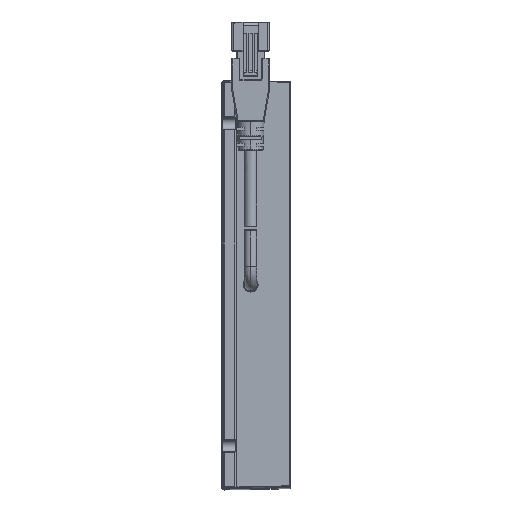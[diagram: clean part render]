
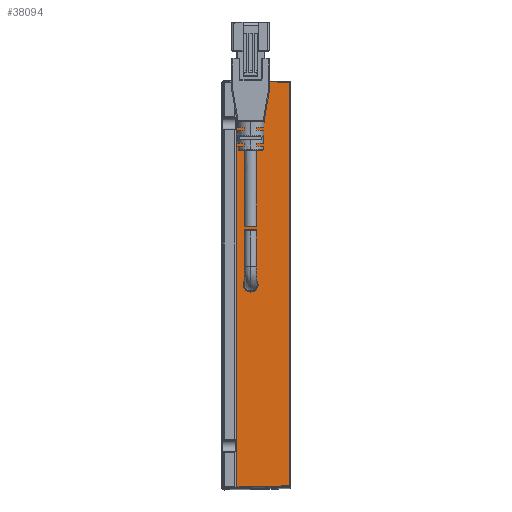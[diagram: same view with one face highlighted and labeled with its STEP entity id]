
A CAD part, top view. The second image highlights one B-rep face of the part: STEP entity #38094.
In plain terms, the highlighted planar face has unit normal (0.018, 0, 1).
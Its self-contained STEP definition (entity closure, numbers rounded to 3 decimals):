
#488 = LINE ( 'NONE', #38589, #13342 ) ;
#1365 = ORIENTED_EDGE ( 'NONE', *, *, #65788, .T. ) ;
#1821 = CARTESIAN_POINT ( 'NONE',  ( 18.803, -56.131, 81.742 ) ) ;
#1988 = CARTESIAN_POINT ( 'NONE',  ( 9.803, -1.038, 81.899 ) ) ;
#2279 = CARTESIAN_POINT ( 'NONE',  ( 5.998, -0.538, 81.965 ) ) ;
#2380 = CARTESIAN_POINT ( 'NONE',  ( 8.543, -2.006, 81.921 ) ) ;
#3476 = CARTESIAN_POINT ( 'NONE',  ( 6.357, -1.265, 81.959 ) ) ;
#5712 = CARTESIAN_POINT ( 'NONE',  ( 4.196, -56.386, 81.997 ) ) ;
#5761 = VECTOR ( 'NONE', #40625, 1000. ) ;
#8348 = EDGE_CURVE ( 'NONE', #103718, #18200, #117886, .T. ) ;
#10392 = CARTESIAN_POINT ( 'NONE',  ( 8.273, -2.06, 81.925 ) ) ;
#10787 = CARTESIAN_POINT ( 'NONE',  ( 10.064, 0.269, 81.894 ) ) ;
#11098 = CARTESIAN_POINT ( 'NONE',  ( 8.003, -2.06, 81.93 ) ) ;
#11336 = CARTESIAN_POINT ( 'NONE',  ( 8.003, -2.06, 81.93 ) ) ;
#12683 = EDGE_CURVE ( 'NONE', #63724, #41693, #66627, .T. ) ;
#13342 = VECTOR ( 'NONE', #111138, 1000. ) ;
#14881 = LINE ( 'NONE', #91465, #40748 ) ;
#16162 = FACE_OUTER_BOUND ( 'NONE', #74023, .T. ) ;
#18200 = VERTEX_POINT ( 'NONE', #96472 ) ;
#20464 = CARTESIAN_POINT ( 'NONE',  ( 9.041, 1.8, 81.912 ) ) ;
#20612 = ORIENTED_EDGE ( 'NONE', *, *, #87827, .T. ) ;
#27730 = FACE_BOUND ( 'NONE', #60481, .T. ) ;
#28525 = CARTESIAN_POINT ( 'NONE',  ( 8.003, 2.06, 81.93 ) ) ;
#29324 = CARTESIAN_POINT ( 'NONE',  ( 10.063, -0.27, 81.894 ) ) ;
#29741 = DIRECTION ( 'NONE',  ( 1., 0.017, -0.017 ) ) ;
#30018 = CARTESIAN_POINT ( 'NONE',  ( 7.735, -2.059, 81.935 ) ) ;
#34064 = ORIENTED_EDGE ( 'NONE', *, *, #12683, .F. ) ;
#34225 = DIRECTION ( 'NONE',  ( 1., 0., -0.017 ) ) ;
#36958 = CARTESIAN_POINT ( 'NONE',  ( 18.803, 56.472, 81.742 ) ) ;
#37789 = CARTESIAN_POINT ( 'NONE',  ( 9.27, 1.647, 81.908 ) ) ;
#38094 = ADVANCED_FACE ( 'NONE', ( #27730, #16162 ), #87940, .T. ) ;
#38589 = CARTESIAN_POINT ( 'NONE',  ( 18.803, 205.595, 81.742 ) ) ;
#38748 = VERTEX_POINT ( 'NONE', #1821 ) ;
#38946 = CARTESIAN_POINT ( 'NONE',  ( 8.543, 2.006, 81.921 ) ) ;
#39350 = CARTESIAN_POINT ( 'NONE',  ( 9.651, 1.266, 81.901 ) ) ;
#40625 = DIRECTION ( 'NONE',  ( -1., 0.017, 0.017 ) ) ;
#40748 = VECTOR ( 'NONE', #73476, 1000. ) ;
#41693 = VERTEX_POINT ( 'NONE', #105627 ) ;
#47804 = CARTESIAN_POINT ( 'NONE',  ( 9.269, -1.647, 81.908 ) ) ;
#48872 = CARTESIAN_POINT ( 'NONE',  ( 6.738, -1.647, 81.952 ) ) ;
#53904 = B_SPLINE_CURVE_WITH_KNOTS ( 'NONE', 3,
 ( #74240, #83373, #57741, #85349, #93799, #103018, #58901, #76177, #103793, #76577, #2279, #66184, #3476, #48872, #94181, #113022, #30018, #11098 ),
 .UNSPECIFIED., .F., .F.,
 ( 4, 2, 2, 2, 2, 2, 2, 2, 4 ),
 ( 0., 0.125, 0.25, 0.375, 0.5, 0.625, 0.75, 0.875, 1. ),
 .UNSPECIFIED. ) ;
#56650 = CARTESIAN_POINT ( 'NONE',  ( 9.041, -1.8, 81.912 ) ) ;
#57048 = CARTESIAN_POINT ( 'NONE',  ( 10.01, -0.54, 81.895 ) ) ;
#57741 = CARTESIAN_POINT ( 'NONE',  ( 7.465, 2.006, 81.94 ) ) ;
#58901 = CARTESIAN_POINT ( 'NONE',  ( 6.205, 1.038, 81.962 ) ) ;
#60481 = EDGE_LOOP ( 'NONE', ( #112133, #34064 ) ) ;
#61478 = DIRECTION ( 'NONE',  ( 0.017, 0., 1. ) ) ;
#63423 = LINE ( 'NONE', #75923, #97786 ) ;
#63724 = VERTEX_POINT ( 'NONE', #11336 ) ;
#64832 = AXIS2_PLACEMENT_3D ( 'NONE', #79166, #61478, #34225 ) ;
#65788 = EDGE_CURVE ( 'NONE', #18200, #118014, #14881, .T. ) ;
#66184 = CARTESIAN_POINT ( 'NONE',  ( 6.204, -1.037, 81.962 ) ) ;
#66291 = CARTESIAN_POINT ( 'NONE',  ( 9.804, 1.037, 81.899 ) ) ;
#66627 = B_SPLINE_CURVE_WITH_KNOTS ( 'NONE', 3,
 ( #83868, #10392, #2380, #56650, #47804, #75511, #1988, #57048, #29324, #10787, #84658, #66291, #39350, #37789, #20464, #38946, #92737, #28525 ),
 .UNSPECIFIED., .F., .F.,
 ( 4, 2, 2, 2, 2, 2, 2, 2, 4 ),
 ( 0., 0.125, 0.25, 0.375, 0.5, 0.625, 0.75, 0.875, 1. ),
 .UNSPECIFIED. ) ;
#67569 = CARTESIAN_POINT ( 'NONE',  ( 18.803, 56.472, 81.742 ) ) ;
#73476 = DIRECTION ( 'NONE',  ( 0., -1., 0. ) ) ;
#74023 = EDGE_LOOP ( 'NONE', ( #1365, #20612, #107867, #101394 ) ) ;
#74240 = CARTESIAN_POINT ( 'NONE',  ( 8.003, 2.06, 81.93 ) ) ;
#75511 = CARTESIAN_POINT ( 'NONE',  ( 9.651, -1.266, 81.901 ) ) ;
#75923 = CARTESIAN_POINT ( 'NONE',  ( 4.196, -56.386, 81.997 ) ) ;
#76177 = CARTESIAN_POINT ( 'NONE',  ( 5.998, 0.54, 81.965 ) ) ;
#76577 = CARTESIAN_POINT ( 'NONE',  ( 5.944, -0.269, 81.966 ) ) ;
#79166 = CARTESIAN_POINT ( 'NONE',  ( 4., 60.579, 82. ) ) ;
#80500 = EDGE_CURVE ( 'NONE', #103718, #38748, #488, .T. ) ;
#83373 = CARTESIAN_POINT ( 'NONE',  ( 7.735, 2.059, 81.935 ) ) ;
#83868 = CARTESIAN_POINT ( 'NONE',  ( 8.003, -2.06, 81.93 ) ) ;
#84658 = CARTESIAN_POINT ( 'NONE',  ( 10.01, 0.539, 81.895 ) ) ;
#85349 = CARTESIAN_POINT ( 'NONE',  ( 6.967, 1.8, 81.948 ) ) ;
#87827 = EDGE_CURVE ( 'NONE', #118014, #38748, #63423, .T. ) ;
#87940 = PLANE ( 'NONE',  #64832 ) ;
#91465 = CARTESIAN_POINT ( 'NONE',  ( 4.197, 56.727, 81.997 ) ) ;
#92737 = CARTESIAN_POINT ( 'NONE',  ( 8.272, 2.06, 81.925 ) ) ;
#93799 = CARTESIAN_POINT ( 'NONE',  ( 6.739, 1.647, 81.952 ) ) ;
#94181 = CARTESIAN_POINT ( 'NONE',  ( 6.966, -1.799, 81.948 ) ) ;
#96472 = CARTESIAN_POINT ( 'NONE',  ( 4.197, 56.727, 81.997 ) ) ;
#97786 = VECTOR ( 'NONE', #29741, 1000. ) ;
#101394 = ORIENTED_EDGE ( 'NONE', *, *, #8348, .T. ) ;
#103018 = CARTESIAN_POINT ( 'NONE',  ( 6.358, 1.266, 81.959 ) ) ;
#103718 = VERTEX_POINT ( 'NONE', #36958 ) ;
#103793 = CARTESIAN_POINT ( 'NONE',  ( 5.945, 0.271, 81.966 ) ) ;
#105627 = CARTESIAN_POINT ( 'NONE',  ( 8.003, 2.06, 81.93 ) ) ;
#107867 = ORIENTED_EDGE ( 'NONE', *, *, #80500, .F. ) ;
#111138 = DIRECTION ( 'NONE',  ( 0., -1., 0. ) ) ;
#112133 = ORIENTED_EDGE ( 'NONE', *, *, #114737, .F. ) ;
#113022 = CARTESIAN_POINT ( 'NONE',  ( 7.464, -2.006, 81.94 ) ) ;
#114737 = EDGE_CURVE ( 'NONE', #41693, #63724, #53904, .T. ) ;
#117886 = LINE ( 'NONE', #67569, #5761 ) ;
#118014 = VERTEX_POINT ( 'NONE', #5712 ) ;
